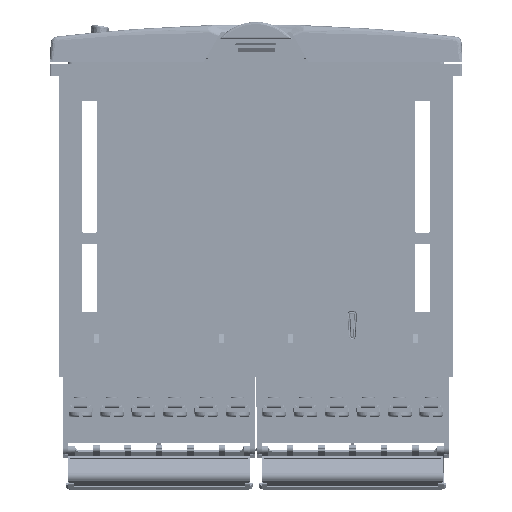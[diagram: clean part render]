
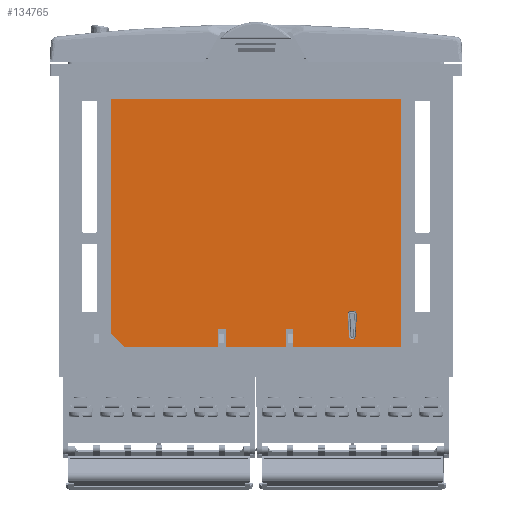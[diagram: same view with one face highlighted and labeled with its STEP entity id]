
A CAD part, left-side view. The second image highlights one B-rep face of the part: STEP entity #134765.
In plain terms, the highlighted planar face has unit normal (-1, 0, 0).
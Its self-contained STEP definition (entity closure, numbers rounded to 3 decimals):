
#3665=DIRECTION('',(0.,-1.,0.));
#3666=VECTOR('',#3665,13.9);
#3667=CARTESIAN_POINT('',(2.037,55.612,-75.479));
#3668=LINE('',#3667,#3666);
#3677=DIRECTION('',(0.,-1.,0.));
#3678=VECTOR('',#3677,25.);
#3679=CARTESIAN_POINT('',(2.037,39.912,-75.479));
#3680=LINE('',#3679,#3678);
#3689=DIRECTION('',(0.,-1.,0.));
#3690=VECTOR('',#3689,22.);
#3691=CARTESIAN_POINT('',(2.037,79.412,-75.479));
#3692=LINE('',#3691,#3690);
#3701=DIRECTION('',(0.,0.,-1.));
#3702=VECTOR('',#3701,4.);
#3703=CARTESIAN_POINT('',(2.037,55.612,-71.479));
#3704=LINE('',#3703,#3702);
#3717=DIRECTION('',(0.,-1.,0.));
#3718=VECTOR('',#3717,1.8);
#3719=CARTESIAN_POINT('',(2.037,57.412,-71.479));
#3720=LINE('',#3719,#3718);
#3729=DIRECTION('',(0.,0.,1.));
#3730=VECTOR('',#3729,4.);
#3731=CARTESIAN_POINT('',(2.037,57.412,-75.479));
#3732=LINE('',#3731,#3730);
#3733=DIRECTION('',(0.,0.707,0.707));
#3734=VECTOR('',#3733,4.243);
#3735=CARTESIAN_POINT('',(2.037,79.412,-75.479));
#3736=LINE('',#3735,#3734);
#3737=DIRECTION('',(0.,0.,1.));
#3738=VECTOR('',#3737,4.);
#3739=CARTESIAN_POINT('',(2.037,39.912,-75.479));
#3740=LINE('',#3739,#3738);
#3741=DIRECTION('',(0.,-0.054,0.999));
#3742=VECTOR('',#3741,5.113);
#3743=CARTESIAN_POINT('',(2.037,25.413,-73.023));
#3744=LINE('',#3743,#3742);
#3745=CARTESIAN_POINT('',(2.037,25.834,-67.879));
#3746=DIRECTION('',(-1.,0.,0.));
#3747=DIRECTION('',(0.,-0.999,-0.054));
#3748=AXIS2_PLACEMENT_3D('',#3745,#3746,#3747);
#3750=CARTESIAN_POINT('',(2.037,26.589,-67.879));
#3751=DIRECTION('',(-1.,0.,0.));
#3752=DIRECTION('',(0.,0.,1.));
#3753=AXIS2_PLACEMENT_3D('',#3750,#3751,#3752);
#3755=DIRECTION('',(0.,-0.054,-0.999));
#3756=VECTOR('',#3755,5.113);
#3757=CARTESIAN_POINT('',(2.037,27.288,-67.917));
#3758=LINE('',#3757,#3756);
#3759=CARTESIAN_POINT('',(2.037,26.212,-72.979));
#3760=DIRECTION('',(-1.,0.,0.));
#3761=DIRECTION('',(0.,0.999,-0.054));
#3762=AXIS2_PLACEMENT_3D('',#3759,#3760,#3761);
#62363=DIRECTION('',(0.,-1.,0.));
#62364=VECTOR('',#62363,1.8);
#62365=CARTESIAN_POINT('',(2.037,41.712,
-71.479));
#62366=LINE('',#62365,#62364);
#62379=DIRECTION('',(0.,0.,1.));
#62380=VECTOR('',#62379,4.);
#62381=CARTESIAN_POINT('',(2.037,41.712,
-75.479));
#62382=LINE('',#62381,#62380);
#79643=DIRECTION('',(0.,0.,-1.));
#79644=VECTOR('',#79643,54.6);
#79645=CARTESIAN_POINT('',(2.037,82.412,
-17.879));
#79646=LINE('',#79645,#79644);
#79655=DIRECTION('',(0.,1.,0.));
#79656=VECTOR('',#79655,67.5);
#79657=CARTESIAN_POINT('',(2.037,14.912,
-17.879));
#79658=LINE('',#79657,#79656);
#79667=DIRECTION('',(0.,0.,1.));
#79668=VECTOR('',#79667,57.6);
#79669=CARTESIAN_POINT('',(2.037,14.912,
-75.479));
#79670=LINE('',#79669,#79668);
#79705=DIRECTION('',(0.,-1.,0.));
#79706=VECTOR('',#79705,0.755);
#79707=CARTESIAN_POINT('',(2.037,26.589,
-67.179));
#79708=LINE('',#79707,#79706);
#104987=CARTESIAN_POINT('',(2.037,39.912,
-75.479));
#104988=CARTESIAN_POINT('',(2.037,39.912,
-71.479));
#104989=VERTEX_POINT('',#104987);
#104990=VERTEX_POINT('',#104988);
#104997=CARTESIAN_POINT('',(2.037,79.412,
-75.479));
#104998=CARTESIAN_POINT('',(2.037,82.412,
-72.479));
#104999=VERTEX_POINT('',#104997);
#105000=VERTEX_POINT('',#104998);
#105001=CARTESIAN_POINT('',(2.037,82.412,
-17.879));
#105002=VERTEX_POINT('',#105001);
#105003=CARTESIAN_POINT('',(2.037,14.912,
-17.879));
#105004=VERTEX_POINT('',#105003);
#105005=CARTESIAN_POINT('',(2.037,14.912,
-75.479));
#105006=VERTEX_POINT('',#105005);
#105007=CARTESIAN_POINT('',(2.037,55.612,
-75.479));
#105008=CARTESIAN_POINT('',(2.037,41.712,
-75.479));
#105009=VERTEX_POINT('',#105007);
#105010=VERTEX_POINT('',#105008);
#105011=CARTESIAN_POINT('',(2.037,57.412,
-75.479));
#105012=VERTEX_POINT('',#105011);
#105025=CARTESIAN_POINT('',(2.037,25.413,
-73.023));
#105026=CARTESIAN_POINT('',(2.037,25.135,
-67.917));
#105027=VERTEX_POINT('',#105025);
#105028=VERTEX_POINT('',#105026);
#105029=CARTESIAN_POINT('',(2.037,25.834,
-67.179));
#105030=VERTEX_POINT('',#105029);
#105031=CARTESIAN_POINT('',(2.037,26.589,
-67.179));
#105032=VERTEX_POINT('',#105031);
#105033=CARTESIAN_POINT('',(2.037,27.288,
-67.917));
#105034=VERTEX_POINT('',#105033);
#105035=CARTESIAN_POINT('',(2.037,27.011,
-73.023));
#105036=VERTEX_POINT('',#105035);
#105049=CARTESIAN_POINT('',(2.037,57.412,
-71.479));
#105050=VERTEX_POINT('',#105049);
#105055=CARTESIAN_POINT('',(2.037,55.612,
-71.479));
#105056=VERTEX_POINT('',#105055);
#105071=CARTESIAN_POINT('',(2.037,41.712,
-71.479));
#105072=VERTEX_POINT('',#105071);
#134724=CARTESIAN_POINT('',(2.037,48.662,
-46.679));
#134725=DIRECTION('',(1.,0.,0.));
#134726=DIRECTION('',(0.,0.,-1.));
#134727=AXIS2_PLACEMENT_3D('',#134724,#134725,#134726);
#134728=PLANE('',#134727);
#134730=ORIENTED_EDGE('',*,*,#134729,.T.);
#134732=ORIENTED_EDGE('',*,*,#134731,.F.);
#134734=ORIENTED_EDGE('',*,*,#134733,.F.);
#134736=ORIENTED_EDGE('',*,*,#134735,.F.);
#134737=ORIENTED_EDGE('',*,*,#134668,.F.);
#134739=ORIENTED_EDGE('',*,*,#134738,.T.);
#134741=ORIENTED_EDGE('',*,*,#134740,.F.);
#134743=ORIENTED_EDGE('',*,*,#134742,.F.);
#134744=ORIENTED_EDGE('',*,*,#134660,.F.);
#134745=ORIENTED_EDGE('',*,*,#134691,.F.);
#134746=ORIENTED_EDGE('',*,*,#134705,.F.);
#134747=ORIENTED_EDGE('',*,*,#134718,.F.);
#134748=ORIENTED_EDGE('',*,*,#134676,.F.);
#134749=EDGE_LOOP('',(#134730,#134732,#134734,#134736,#134737,#134739,#134741,
#134743,#134744,#134745,#134746,#134747,#134748));
#134750=FACE_OUTER_BOUND('',#134749,.F.);
#134752=ORIENTED_EDGE('',*,*,#134751,.T.);
#134754=ORIENTED_EDGE('',*,*,#134753,.T.);
#134756=ORIENTED_EDGE('',*,*,#134755,.F.);
#134758=ORIENTED_EDGE('',*,*,#134757,.T.);
#134760=ORIENTED_EDGE('',*,*,#134759,.T.);
#134762=ORIENTED_EDGE('',*,*,#134761,.T.);
#134763=EDGE_LOOP('',(#134752,#134754,#134756,#134758,#134760,#134762));
#134764=FACE_BOUND('',#134763,.F.);
#3749=CIRCLE('',#3748,0.7);
#3754=CIRCLE('',#3753,0.7);
#3763=CIRCLE('',#3762,0.8);
#134660=EDGE_CURVE('',#105009,#105010,#3668,.T.);
#134668=EDGE_CURVE('',#104989,#105006,#3680,.T.);
#134676=EDGE_CURVE('',#104999,#105012,#3692,.T.);
#134691=EDGE_CURVE('',#105056,#105009,#3704,.T.);
#134705=EDGE_CURVE('',#105050,#105056,#3720,.T.);
#134718=EDGE_CURVE('',#105012,#105050,#3732,.T.);
#134729=EDGE_CURVE('',#104999,#105000,#3736,.T.);
#134731=EDGE_CURVE('',#105002,#105000,#79646,.T.);
#134733=EDGE_CURVE('',#105004,#105002,#79658,.T.);
#134735=EDGE_CURVE('',#105006,#105004,#79670,.T.);
#134738=EDGE_CURVE('',#104989,#104990,#3740,.T.);
#134740=EDGE_CURVE('',#105072,#104990,#62366,.T.);
#134742=EDGE_CURVE('',#105010,#105072,#62382,.T.);
#134751=EDGE_CURVE('',#105027,#105028,#3744,.T.);
#134753=EDGE_CURVE('',#105028,#105030,#3749,.T.);
#134755=EDGE_CURVE('',#105032,#105030,#79708,.T.);
#134757=EDGE_CURVE('',#105032,#105034,#3754,.T.);
#134759=EDGE_CURVE('',#105034,#105036,#3758,.T.);
#134761=EDGE_CURVE('',#105036,#105027,#3763,.T.);
#134765=ADVANCED_FACE('',(#134750,#134764),#134728,.F.);
